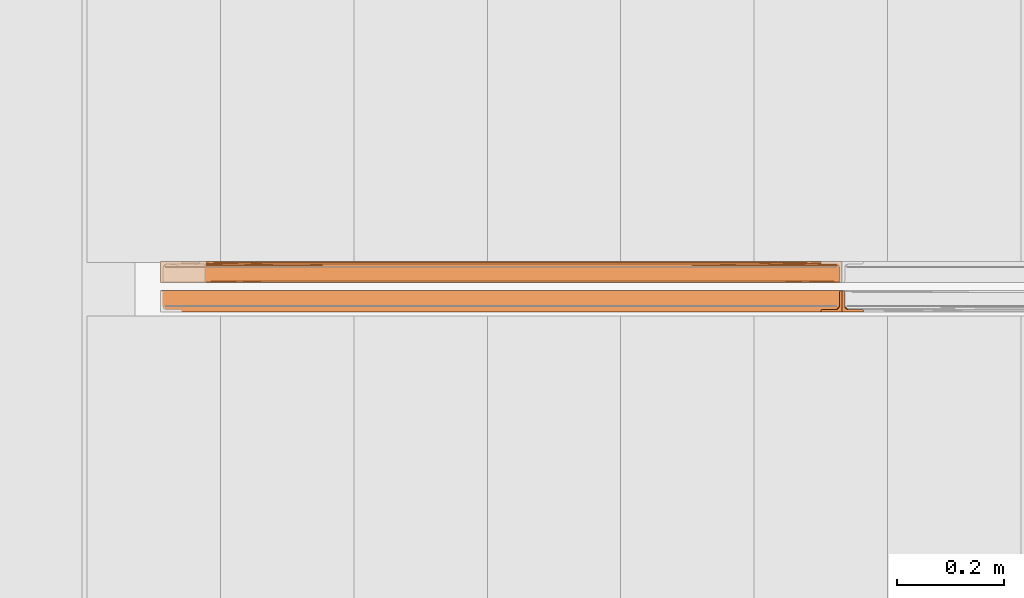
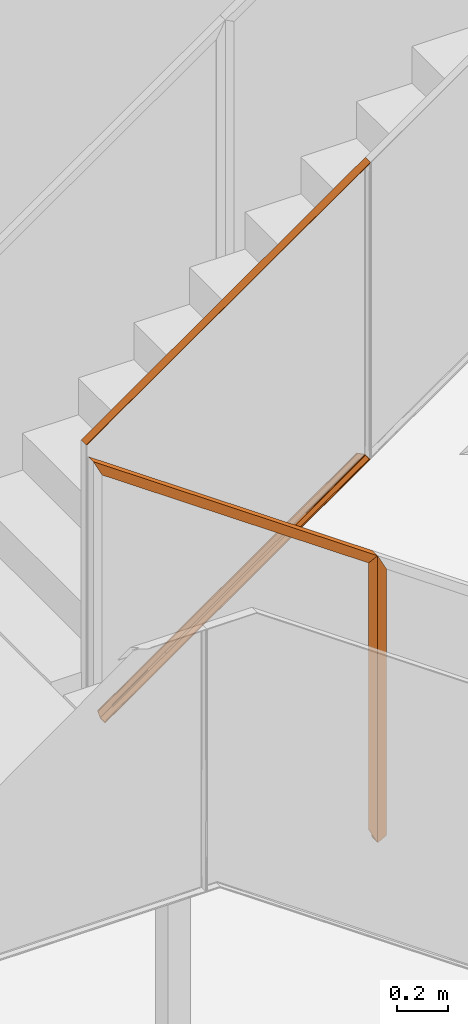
# One storey, part 220 of 230: 5 proxies.
"""IFC4X3_ADD2 building model written with IfcOpenShell, lengths in millimetres."""

from ifc_helpers import new_model, si_unit, direction, frame, origin_with_axes, place, context, subcontext, project, spatial, polygons, source, transform, mapped, material, type_object, type_shapes, element, save


model = new_model("IFC4X3_ADD2")

# Units and contexts
model_context = context("Model", 3, precision=1e-05, world=origin_with_axes(), true_north=direction((0.0, 1.0)))
body_context = subcontext(model_context, "Body", "Model", "MODEL_VIEW")
ifc_project = project(units=[si_unit("LENGTHUNIT", "METRE", prefix="MILLI"), si_unit("AREAUNIT", "SQUARE_METRE"), si_unit("VOLUMEUNIT", "CUBIC_METRE"), si_unit("PLANEANGLEUNIT", "RADIAN"), si_unit("TIMEUNIT", "SECOND"), si_unit("MASSUNIT", "GRAM")], contexts=[model_context])

# Site, building, storey
site_placement = place(None, origin_with_axes())
site = spatial("IfcSite", under=ifc_project, at=site_placement, Name="Site", CompositionType="ELEMENT")
building_placement = place(site_placement, origin_with_axes())
building = spatial("IfcBuilding", under=site, at=building_placement, Name="IFC Building Story")
storey_placement = place(building_placement, origin_with_axes())
storey = spatial("IfcBuildingStorey", under=building, at=storey_placement, Name="ETAGE 00 (0)", Elevation=0.0)

# Proxies
ifc_material = material(Name="<Unnamed>")
building_element_proxy_type_1 = type_object("IfcBuildingElementProxyType", Name="65", PredefinedType="NOTDEFINED")
shared_shape_1 = source(origin_with_axes(), body_context, "Body", "Tessellation", [
    polygons([(40.0, 1.99999999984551, 1286.24648225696), (40.0, 2.00000000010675, 20.8226812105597), (40.0, 0.0, 20.8226812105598), (40.0, 0.0, 1286.24648225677), (0.0, 40.0, 0.0), (2.00000000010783, 40.0, 1.0411340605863), (2.00000000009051, 40.0, 170.921949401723), (1.99999999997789, 40.0, 1190.20685839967), (1.99999999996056, 40.0, 1360.0876765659), (0.0, 40.0, 1363.97405521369), (0.0, 0.0, 1363.97405521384), (2.31582844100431, 39.9880662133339, 1359.47396211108), (3.85282235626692, 39.5249174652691, 1356.487291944), (4.49041205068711, 38.9106020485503, 1355.24833445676), (4.85253243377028, 38.1387003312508, 1354.54466599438), (4.99999999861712, 37.0000000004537, 1354.25810859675), (4.9999999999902, 10.9999999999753, 1354.25810859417), (5.20343727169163, 9.07135693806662, 1353.86279145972), (6.013572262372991, 7.18640241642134, 1352.2885457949), (6.57146270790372, 6.656169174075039, 1351.20445903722), (7.35845085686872, 5.90819565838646, 1349.6751920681), (7.87202388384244, 5.62808755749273, 1348.67722244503), (8.43751112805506, 5.51453953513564, 1347.57837366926), (11.0000000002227, 5.0000000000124, 1342.59897265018), (37.0000000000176, 4.99999999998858, 1292.07605022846), (37.3248673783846, 4.98656493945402, 1291.44477140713), (38.8635648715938, 4.515764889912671, 1288.45479086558), (39.4961244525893, 3.90202600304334, 1287.22560784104), (39.8549912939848, 3.13282829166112, 1286.52826162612), (5.00000000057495, 37.0, 2.60283515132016), (5.00000000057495, 11.0, 2.60283515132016), (5.00000000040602, 10.999999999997, 171.559746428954), (4.99999999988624, 10.9999999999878, 678.430473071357), (4.99999999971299, 10.9999999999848, 847.387381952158), (4.999999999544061, 10.9999999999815, 1016.34429083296), (4.9999999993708, 10.9999999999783, 1185.30119971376), (5.093531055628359, 10.738712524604, 1185.14983023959), (8.44950392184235, 5.41072556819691, 1011.78017006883), (7.05825766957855, 7.64211452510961, 1013.59818569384), (7.73467028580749, 8.22679398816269, 676.497748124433), (7.95812308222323, 8.006273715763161, 172.18510161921), (7.96952985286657, 7.99277528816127, 340.235625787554), (7.88302473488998, 8.0784591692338, 508.317894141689), (11.0008075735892, 5.000818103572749, 5.72623733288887), (11.0008075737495, 5.00081810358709, 841.2716977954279), (7.3902713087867, 6.096478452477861, 3.84713158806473), (8.99855759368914, 5.2998670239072, 4.68435240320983), (11.0000000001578, 5.000000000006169, 1008.38078941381), (7.55959795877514, 8.37434716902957, 844.7873142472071), (6.77279429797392, 6.78009211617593, 3.5256934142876), (5.79338493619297, 7.86440393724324, 3.01584519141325), (36.9999999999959, 4.99999999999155, 19.2609801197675), (36.9999999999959, 4.99999999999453, 178.362863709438), (37.0, 5.00000000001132, 1132.97416644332), (38.7100683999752, 4.51550741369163, 20.1511853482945), (39.6148270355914, 3.54657935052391, 20.6221728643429), (0.0, 0.0, 0.0), (3.71202322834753, 39.5142342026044, 1.93235690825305), (4.61571354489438, 38.5449806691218, 2.40278829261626)], [[[1, 2, 3, 4]], [[8, 9, 10]], [[10, 7, 8]], [[10, 5, 7]], [[5, 6, 7]], [[25, 26, 27]], [[25, 27, 28]], [[25, 28, 29]], [[25, 29, 1]], [[25, 1, 4]], [[4, 11, 24]], [[4, 24, 25]], [[11, 23, 24]], [[11, 22, 23]], [[11, 21, 22]], [[11, 20, 21]], [[11, 19, 20]], [[11, 18, 19]], [[11, 17, 18]], [[11, 9, 12]], [[11, 12, 13]], [[11, 13, 14]], [[11, 14, 15]], [[11, 15, 16]], [[11, 16, 17]], [[11, 10, 9]], [[36, 17, 16]], [[16, 35, 36]], [[16, 34, 35]], [[16, 33, 34]], [[33, 16, 30]], [[30, 32, 33]], [[30, 31, 32]], [[21, 20, 37]], [[37, 22, 21]], [[37, 38, 23]], [[37, 39, 38]], [[43, 40, 33]], [[33, 42, 43]], [[33, 32, 42]], [[32, 41, 42]], [[20, 19, 36]], [[18, 17, 36]], [[36, 19, 18]], [[42, 41, 44]], [[44, 43, 42]], [[44, 40, 43]], [[44, 45, 40]], [[46, 47, 41]], [[41, 47, 44]], [[48, 38, 49]], [[49, 45, 48]], [[38, 39, 49]], [[24, 23, 38]], [[45, 49, 40]], [[34, 49, 39]], [[35, 39, 37]], [[49, 34, 33]], [[50, 41, 32]], [[32, 51, 50]], [[32, 31, 51]], [[33, 40, 49]], [[37, 36, 35]], [[39, 35, 34]], [[38, 48, 24]], [[41, 50, 46]], [[36, 37, 20]], [[37, 23, 22]], [[53, 45, 44]], [[44, 52, 53]], [[53, 54, 45]], [[54, 48, 45]], [[54, 25, 24]], [[54, 24, 48]], [[54, 53, 2, 1]], [[1, 29, 54]], [[26, 25, 54]], [[28, 27, 54]], [[54, 29, 28]], [[54, 27, 26]], [[55, 56, 53]], [[53, 52, 55]], [[53, 56, 2]], [[11, 4, 3, 57]], [[10, 11, 57, 5]], [[8, 7, 30, 16]], [[16, 15, 8]], [[12, 9, 8]], [[14, 13, 8]], [[8, 15, 14]], [[8, 13, 12]], [[58, 59, 7]], [[7, 6, 58]], [[7, 59, 30]], [[31, 30, 59]], [[31, 59, 58]], [[31, 58, 6]], [[31, 6, 5]], [[31, 5, 57]], [[57, 51, 31]], [[57, 50, 51]], [[57, 46, 50]], [[57, 47, 46]], [[57, 44, 47]], [[57, 3, 2]], [[57, 2, 56]], [[57, 56, 55]], [[57, 55, 52]], [[57, 52, 44]]]),
])
type_shapes(building_element_proxy_type_1, [shared_shape_1])
proxy_1_placement = place(storey_placement, frame((36336.6894781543, 1792.49996376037, 717.786953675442), z_axis=(0.0, 0.0, 1.0), x_axis=(1.0, 0.0, 0.0)))
element("IfcBuildingElementProxy", 1, at=proxy_1_placement, inside=storey, type_object=building_element_proxy_type_1, material=ifc_material, Name="33", ObjectType="33", context=body_context, shape_type="MappedRepresentation", body=[
    mapped(shared_shape_1, transform((0.0, 0.0, 0.0))),
])
building_element_proxy_type_2 = type_object("IfcBuildingElementProxyType", Name="69", PredefinedType="NOTDEFINED")
shared_shape_2 = source(origin_with_axes(), body_context, "Body", "Tessellation", [
    polygons([(1087.80507079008, 1.9999999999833, 104.614186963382), (938.1101435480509, 2.0000000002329, 209.228372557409), (788.415216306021, 2.00000000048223, 313.842558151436), (638.720289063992, 2.00000000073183, 418.456743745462), (489.025361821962, 2.00000000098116, 523.070929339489), (339.330434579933, 2.00000000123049, 627.685114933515), (189.635507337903, 2.0000000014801, 732.299300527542), (39.9405800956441, 2.00000000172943, 836.913486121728), (39.9405800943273, 0.0, 836.9134861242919), (1237.49999999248, 0.0, 0.0), (1237.49999999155, 1.99999999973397, 0.0), (1277.4999999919, 0.0, 20.5847158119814), (1277.4999999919, 39.9999993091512, 20.5847158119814), (1275.49999998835, 39.999998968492, 19.5554800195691), (1273.78295876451, 39.5192020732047, 18.671859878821), (1272.8892796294, 38.5672469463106, 18.2119566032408), (1272.49999999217, 36.999999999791, 18.0116263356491), (1272.49999999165, 10.9999999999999, 18.0116263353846), (1271.70646560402, 7.84953853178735, 17.6032593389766), (1270.72361303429, 6.76925584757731, 17.0974658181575), (1270.09140710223, 6.07437938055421, 16.7721213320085), (1268.48792597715, 5.292541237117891, 15.9469412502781), (1266.4999999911, 4.99999992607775, 14.9239189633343), (1240.49999998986, 4.99999993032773, 1.54385368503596), (1238.78411000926, 4.51614877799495, 0.660825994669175), (1237.88638288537, 3.55634971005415, 0.198839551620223), (0.0, 40.0, 914.525594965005), (1.99708906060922, 40.0, 910.6448728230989), (161.184952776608, 39.9999999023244, 799.258698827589), (320.37281649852, 39.9999997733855, 687.872524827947), (479.560680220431, 39.9999996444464, 576.486350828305), (638.748543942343, 39.9999995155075, 465.100176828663), (797.93640766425, 39.9999993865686, 353.714002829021), (957.1242713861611, 39.9999992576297, 242.32782882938), (1116.31213510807, 39.9999991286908, 130.941654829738), (0.0, 0.0, 914.525594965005), (789.166920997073, 4.99999996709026, 316.990242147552), (39.480432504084, 3.82763644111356, 837.807640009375), (39.8256776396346, 3.01425003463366, 837.136763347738), (187.389484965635, 5.00000001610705, 737.585424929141), (38.0473110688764, 4.85258166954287, 840.59246628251), (36.9451259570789, 5.00000002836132, 842.734220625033), (1090.0556390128, 4.999999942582, 106.692650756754), (939.611280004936, 4.99999995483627, 211.841446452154), (488.278202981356, 4.99999999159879, 527.2878335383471), (337.833843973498, 5.00000000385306, 632.436629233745), (638.722561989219, 4.99999997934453, 422.13903784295), (324.862934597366, 4.99999996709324, 673.617309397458), (167.923423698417, 4.99999997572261, 783.399541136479), (10.9839127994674, 4.9999999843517, 893.1817728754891), (638.737543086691, 8.20848828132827, 458.044442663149), (480.943324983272, 8.37005282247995, 568.63793859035), (480.306575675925, 11.0023662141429, 572.2672862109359), (1114.0628223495, 10.997867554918, 128.864912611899), (1111.83497002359, 8.00304115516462, 126.801265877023), (954.1286967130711, 7.98525257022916, 237.116300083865), (796.454047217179, 8.06538862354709, 347.527651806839), (5.29290837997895, 8.72763689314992, 904.2404719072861), (6.02319753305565, 7.18090700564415, 902.8213818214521), (163.431122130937, 10.9999999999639, 793.972288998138), (6.59476591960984, 6.631767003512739, 901.710716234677), (164.951057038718, 7.684066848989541, 790.397291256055), (166.033180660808, 5.39491835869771, 787.853061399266), (10.3484976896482, 5.02188702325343, 894.416504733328), (323.074240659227, 8.50738667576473, 679.2777271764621), (321.869533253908, 10.9999999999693, 683.120765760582), (8.469863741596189, 5.58853426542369, 898.067046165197), (7.31943353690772, 5.93553539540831, 900.302549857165), (4.99271100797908, 10.9999999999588, 904.823812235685), (1114.06158785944, 36.9999999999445, 128.863150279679), (955.6231768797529, 37.0000000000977, 239.714673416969), (797.1847659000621, 37.0000000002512, 350.566196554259), (638.7463549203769, 37.0000000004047, 461.417719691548), (480.307943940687, 37.0000000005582, 572.269242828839), (321.869532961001, 37.0000000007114, 683.1207659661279), (163.431121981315, 37.0000000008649, 793.972289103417), (4.99271100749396, 37.0000000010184, 904.823812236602), (4.53374512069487, 38.8251689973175, 905.715669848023), (4.87983447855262, 37.9993302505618, 905.0431527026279), (3.10194289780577, 39.8549942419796, 908.4979326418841)], [[[7, 8, 9]], [[9, 6, 7]], [[9, 5, 6]], [[9, 4, 5]], [[9, 3, 4]], [[9, 2, 3]], [[9, 1, 2]], [[9, 10, 1]], [[10, 11, 1]], [[23, 24, 25]], [[23, 25, 26]], [[23, 26, 11]], [[23, 11, 10]], [[23, 10, 12]], [[12, 22, 23]], [[12, 21, 22]], [[12, 20, 21]], [[12, 19, 20]], [[12, 18, 19]], [[12, 13, 14]], [[12, 14, 15]], [[12, 15, 16]], [[12, 16, 17]], [[12, 17, 18]], [[35, 14, 13]], [[13, 34, 35]], [[13, 33, 34]], [[13, 32, 33]], [[13, 31, 32]], [[13, 30, 31]], [[13, 29, 30]], [[13, 27, 29]], [[27, 28, 29]], [[12, 10, 9, 36]], [[4, 3, 37]], [[38, 39, 40]], [[40, 41, 38]], [[40, 42, 41]], [[40, 39, 8]], [[8, 7, 40]], [[1, 43, 44]], [[3, 2, 44]], [[43, 1, 11]], [[11, 26, 43]], [[25, 24, 43]], [[43, 26, 25]], [[6, 5, 45]], [[7, 6, 46]], [[5, 4, 47]], [[47, 45, 5]], [[46, 40, 7]], [[45, 46, 6]], [[44, 37, 3]], [[44, 2, 1]], [[37, 47, 4]], [[49, 50, 42]], [[49, 42, 40]], [[40, 46, 48]], [[40, 48, 49]], [[43, 24, 23]], [[23, 44, 43]], [[23, 37, 44]], [[23, 47, 37]], [[23, 48, 47]], [[48, 45, 47]], [[48, 46, 45]], [[51, 52, 53]], [[57, 51, 53]], [[53, 56, 57]], [[53, 54, 56]], [[54, 55, 56]], [[58, 59, 60]], [[61, 62, 60]], [[60, 59, 61]], [[51, 52, 48]], [[48, 57, 51]], [[48, 56, 57]], [[48, 55, 56]], [[48, 23, 55]], [[50, 49, 63]], [[63, 64, 50]], [[20, 19, 54]], [[19, 18, 54]], [[65, 52, 53]], [[66, 60, 62]], [[49, 48, 65]], [[65, 63, 49]], [[67, 63, 62]], [[62, 68, 67]], [[23, 22, 55]], [[21, 20, 55]], [[55, 22, 21]], [[62, 61, 68]], [[65, 62, 63]], [[52, 65, 48]], [[62, 65, 66]], [[53, 66, 65]], [[54, 55, 20]], [[63, 67, 64]], [[60, 69, 58]], [[76, 77, 69]], [[76, 69, 60]], [[60, 66, 75]], [[60, 75, 76]], [[66, 53, 74]], [[66, 74, 75]], [[53, 73, 74]], [[53, 72, 73]], [[72, 53, 54]], [[54, 71, 72]], [[54, 70, 71]], [[54, 18, 17]], [[54, 17, 70]], [[73, 72, 33]], [[78, 79, 29]], [[29, 80, 78]], [[29, 28, 80]], [[29, 79, 77]], [[77, 76, 29]], [[70, 35, 34]], [[72, 71, 34]], [[35, 70, 17]], [[17, 16, 35]], [[15, 14, 35]], [[35, 16, 15]], [[75, 74, 31]], [[76, 75, 30]], [[74, 73, 32]], [[32, 31, 74]], [[30, 29, 76]], [[31, 30, 75]], [[34, 33, 72]], [[34, 71, 70]], [[33, 32, 73]], [[13, 12, 36, 27]], [[28, 27, 36]], [[28, 36, 69]], [[69, 77, 79]], [[69, 79, 78]], [[69, 78, 80]], [[69, 80, 28]], [[36, 58, 69]], [[36, 59, 58]], [[36, 61, 59]], [[36, 68, 61]], [[36, 67, 68]], [[36, 64, 67]], [[36, 50, 64]], [[36, 9, 42]], [[36, 42, 50]], [[9, 8, 39]], [[9, 39, 38]], [[9, 38, 41]], [[9, 41, 42]]]),
])
type_shapes(building_element_proxy_type_2, [shared_shape_2])
proxy_2_placement = place(storey_placement, frame((35059.1894781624, 1792.49996376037, 2061.17629308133), z_axis=(0.0, 0.0, 1.0), x_axis=(1.0, 0.0, 0.0)))
element("IfcBuildingElementProxy", 2, at=proxy_2_placement, inside=storey, type_object=building_element_proxy_type_2, material=ifc_material, Name="35", ObjectType="35", context=body_context, shape_type="MappedRepresentation", body=[
    mapped(shared_shape_2, transform((0.0, 0.0, 0.0))),
])
building_element_proxy_type_3 = type_object("IfcBuildingElementProxyType", Name="73", PredefinedType="NOTDEFINED")
shared_shape_3 = source(origin_with_axes(), body_context, "Body", "Tessellation", [
    polygons([(0.0, 2.0000000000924, 76.8392861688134), (0.0, 1.99999999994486, 1343.38933940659), (0.0, 0.0, 1343.38933940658), (0.0, 0.0, 76.8392861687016), (0.327991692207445, 3.45815368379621, 1343.55812980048), (1.13188224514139, 4.41923267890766, 1343.97182626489), (3.00000000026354, 4.99999999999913, 1344.93319309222), (29.0000000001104, 5.00000000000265, 1358.31325837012), (30.926496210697, 5.266664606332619, 1359.30466779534), (32.310878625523, 5.87172563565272, 1360.01709575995), (33.2995916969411, 6.71022901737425, 1360.52590519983), (33.6151337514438, 6.97783251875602, 1360.6882887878), (34.6104471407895, 8.69632131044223, 1361.20049486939), (35.0000000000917, 11.0, 1361.40096574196), (35.000000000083, 37.0, 1361.40096574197), (35.3279923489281, 38.4581549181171, 1361.56975647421), (36.1318837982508, 39.4192337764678, 1361.98345339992), (37.9999999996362, 39.9999996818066, 1362.94481942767), (40.0, 40.0, 1363.9740552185), (40.0, 0.0, 1363.97405521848), (32.4273969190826, 8.38444936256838, 519.098461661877), (32.2621478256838, 8.21933205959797, 687.413218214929), (32.1156348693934, 8.07323138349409, 855.6192954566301), (32.0316664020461, 7.990615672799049, 1023.72930930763), (34.9981749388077, 11.0017979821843, 1023.45195197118), (35.0021207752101, 10.9979106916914, 516.528431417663), (35.0000000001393, 11.0, 1192.42645887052), (32.0601748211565, 7.987688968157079, 1191.80818023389), (29.0000000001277, 4.99999999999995, 1191.16545153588), (35.0004955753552, 10.9996975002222, 347.553924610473), (34.8927832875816, 10.7692745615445, 178.725520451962), (31.5802848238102, 5.397909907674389, 352.023770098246), (32.9234502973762, 7.59780584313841, 350.250145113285), (33.4570276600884, 6.621242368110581, 12.5689331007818), (33.9451302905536, 7.07589816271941, 11.6312966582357), (35.0000000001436, 11.0, 178.57941764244), (34.6938525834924, 8.64555325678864, 10.1930144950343), (35.0000000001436, 10.9999999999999, 9.6049107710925), (28.9993393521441, 5.00066992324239, 355.4264173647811), (29.000000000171, 4.99999999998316, 21.1308036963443), (29.5551867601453, 5.01478043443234, 20.0642998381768), (31.5871078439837, 5.581653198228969, 16.161015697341), (32.66328308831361, 5.88188849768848, 14.093702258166), (3.00000000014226, 5.00000000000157, 1184.74569161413), (3.00000000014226, 4.99999999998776, 223.620682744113), (3.00000000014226, 4.99999999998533, 71.0763397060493), (0.12933617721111, 3.09014233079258, 76.5908336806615), (0.504825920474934, 3.92809054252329, 75.8695245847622), (1.64893537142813, 4.78761083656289, 73.6717107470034), (37.9999999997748, 39.9999998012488, 1192.0376332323), (35.0000000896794, 36.9999999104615, 9.604910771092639), (38.0000000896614, 40.000000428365, 166.594516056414), (35.1293293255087, 38.0901164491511, 9.356471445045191), (35.504813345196, 38.9280723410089, 8.63517334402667), (36.6489520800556, 39.7876168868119, 6.43730325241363), (38.0000000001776, 40.0000006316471, 3.84196430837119), (40.0, 40.0000007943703, 0.0), (40.0, 0.0, 0.0)], [[[1, 2, 3, 4]], [[14, 15, 16]], [[14, 16, 17]], [[14, 17, 18]], [[14, 18, 19]], [[14, 19, 20]], [[20, 13, 14]], [[20, 12, 13]], [[20, 11, 12]], [[20, 10, 11]], [[20, 9, 10]], [[20, 8, 9]], [[20, 3, 2]], [[20, 2, 5]], [[20, 5, 6]], [[20, 6, 7]], [[20, 7, 8]], [[23, 24, 25]], [[25, 22, 23]], [[25, 26, 22]], [[26, 21, 22]], [[13, 12, 27]], [[11, 28, 27]], [[27, 12, 11]], [[10, 9, 28]], [[8, 29, 28]], [[28, 9, 8]], [[30, 31, 32, 33]], [[26, 21, 33]], [[34, 35, 36]], [[37, 38, 36]], [[36, 35, 37]], [[28, 24, 25]], [[23, 24, 29]], [[29, 22, 23]], [[29, 21, 22]], [[29, 39, 21]], [[40, 41, 32]], [[41, 42, 32]], [[39, 32, 21]], [[32, 33, 21]], [[43, 34, 31]], [[31, 32, 42]], [[31, 42, 43]], [[32, 39, 40]], [[24, 28, 29]], [[25, 27, 28]], [[36, 31, 34]], [[33, 30, 26]], [[31, 36, 30]], [[28, 11, 10]], [[27, 14, 13]], [[29, 8, 7]], [[29, 7, 44]], [[44, 45, 39]], [[44, 39, 29]], [[45, 46, 40]], [[45, 40, 39]], [[6, 5, 44]], [[44, 7, 6]], [[44, 5, 2]], [[2, 1, 45, 44]], [[1, 47, 45]], [[48, 49, 45]], [[45, 47, 48]], [[49, 46, 45]], [[17, 16, 50]], [[50, 18, 17]], [[50, 16, 15]], [[15, 51, 52, 50]], [[51, 53, 52]], [[54, 55, 52]], [[52, 53, 54]], [[55, 56, 52]], [[52, 56, 57]], [[57, 50, 52]], [[57, 19, 50]], [[19, 18, 50]], [[58, 4, 3, 20]], [[57, 58, 20, 19]], [[36, 38, 51]], [[51, 30, 36]], [[51, 26, 30]], [[51, 25, 26]], [[51, 15, 25]], [[15, 27, 25]], [[15, 14, 27]], [[46, 49, 48]], [[46, 48, 47]], [[46, 47, 1]], [[46, 1, 4]], [[4, 58, 40]], [[4, 40, 46]], [[58, 41, 40]], [[58, 42, 41]], [[58, 43, 42]], [[58, 34, 43]], [[58, 35, 34]], [[58, 37, 35]], [[58, 38, 37]], [[58, 56, 55]], [[58, 55, 54]], [[58, 54, 53]], [[58, 53, 51]], [[58, 51, 38]], [[58, 57, 56]]]),
])
type_shapes(building_element_proxy_type_3, [shared_shape_3])
proxy_3_placement = place(storey_placement, frame((36296.6894781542, 1792.49996376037, 717.786953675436), z_axis=(0.0, 0.0, 1.0), x_axis=(1.0, 0.0, 0.0)))
element("IfcBuildingElementProxy", 3, at=proxy_3_placement, inside=storey, type_object=building_element_proxy_type_3, material=ifc_material, Name="37", ObjectType="37", context=body_context, shape_type="MappedRepresentation", body=[
    mapped(shared_shape_3, transform((0.0, 0.0, 0.0))),
])
building_element_proxy_type_4 = type_object("IfcBuildingElementProxyType", Name="101", PredefinedType="NOTDEFINED")
shared_shape_4 = source(origin_with_axes(), body_context, "Body", "Tessellation", [
    polygons([(1164.80670953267, 40.0002983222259, 857.856533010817), (1164.80670953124, 38.0002983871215, 857.856533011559), (0.000174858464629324, 38.0002983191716, 40.0), (0.000174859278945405, 40.0002983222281, 40.0), (12.6121264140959, 0.00029832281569, 0.0), (11.9815288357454, 0.000298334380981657, 2.00000000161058), (160.834676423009, 0.000298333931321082, 106.509373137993), (1053.95356194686, 0.000298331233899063, 733.565611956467), (1202.8067095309, 0.000298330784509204, 838.074985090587), (1204.80670953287, 0.000298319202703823, 837.03385098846), (0.0952514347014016, 36.7384540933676, 39.6984556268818), (0.380692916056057, 35.6413537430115, 38.7931509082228), (0.8107025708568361, 35.0355975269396, 37.4293345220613), (0.946071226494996, 35.0002983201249, 36.9999999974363), (9.143839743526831, 35.0002983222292, 10.9999999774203), (9.99412924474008, 34.2965164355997, 8.30322621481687), (10.6051156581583, 32.6991971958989, 6.365424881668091), (10.9891609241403, 30.2660064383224, 5.14738891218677), (11.0356324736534, 29.0002983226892, 4.999999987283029), (11.0356324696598, 3.00029833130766, 4.99999999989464), (11.1307097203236, 1.73844635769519, 4.6984534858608), (11.4161482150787, 0.641356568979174, 3.79315823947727), (11.846157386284, 0.0355987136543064, 2.4293433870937), (12.6121264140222, 40.0002983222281, 0.0), (1204.80670953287, 40.0002983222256, 837.033850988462), (146.803651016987, 35.0002983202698, 139.411853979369), (1021.94895490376, 34.9999938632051, 753.883226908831), (1165.0846569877, 36.7607604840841, 857.711842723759), (1167.39714986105, 35.0323290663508, 856.508035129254), (1167.80670954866, 35.0002983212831, 856.294831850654), (1165.95408756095, 35.6749476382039, 857.259245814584), (1193.80670954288, 35.0002983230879, 842.760088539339), (308.228401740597, 29.000298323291, 213.659171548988), (306.977721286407, 32.0221901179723, 216.437457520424), (1198.82371215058, 32.2354010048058, 840.148402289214), (1199.73441878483, 29.9222058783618, 839.6743184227), (899.9577433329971, 32.0052137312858, 632.76831278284), (902.613940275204, 29.0002983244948, 630.977514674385), (1199.80670953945, 29.0002983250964, 839.636686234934), (1196.75836388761, 34.1695416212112, 841.223554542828), (603.457355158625, 32.0304687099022, 424.6209830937), (605.421171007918, 29.0002983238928, 422.318343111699), (1199.80670953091, 3.00029832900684, 839.636686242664), (1200.08567709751, 1.75677836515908, 839.4914649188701), (1202.39635203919, 0.0323080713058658, 838.2886036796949), (1200.95477321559, 0.672786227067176, 839.0390421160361)], [[[1, 2, 3, 4]], [[8, 9, 10]], [[10, 7, 8]], [[10, 5, 7]], [[5, 6, 7]], [[6, 5, 24]], [[24, 19, 20]], [[24, 20, 21]], [[24, 21, 22]], [[24, 22, 23]], [[24, 23, 6]], [[24, 18, 19]], [[24, 17, 18]], [[24, 16, 17]], [[24, 15, 16]], [[24, 4, 14]], [[24, 14, 15]], [[4, 3, 11]], [[4, 11, 12]], [[4, 12, 13]], [[4, 13, 14]], [[25, 1, 4, 24]], [[13, 12, 26]], [[12, 11, 26]], [[26, 14, 13]], [[26, 11, 3]], [[3, 2, 27, 26]], [[2, 28, 27]], [[29, 30, 27]], [[27, 31, 29]], [[27, 28, 31]], [[27, 30, 32]], [[32, 15, 26]], [[32, 26, 27]], [[15, 14, 26]], [[33, 19, 18]], [[18, 34, 33]], [[17, 16, 34]], [[34, 18, 17]], [[35, 36, 37]], [[38, 37, 36]], [[36, 39, 38]], [[40, 35, 37]], [[32, 40, 37]], [[41, 34, 15]], [[15, 37, 41]], [[15, 32, 37]], [[34, 16, 15]], [[34, 41, 42]], [[42, 33, 34]], [[38, 42, 41, 37]], [[38, 39, 43]], [[43, 42, 38]], [[43, 33, 42]], [[43, 20, 33]], [[20, 19, 33]], [[23, 22, 7]], [[22, 21, 7]], [[7, 6, 23]], [[7, 21, 20]], [[20, 43, 8, 7]], [[43, 44, 8]], [[45, 9, 8]], [[8, 46, 45]], [[8, 44, 46]], [[24, 5, 10, 25]], [[30, 29, 31]], [[30, 31, 28]], [[30, 28, 2]], [[30, 2, 1]], [[1, 25, 32]], [[1, 32, 30]], [[25, 40, 32]], [[25, 35, 40]], [[25, 36, 35]], [[25, 39, 36]], [[25, 9, 45]], [[25, 45, 46]], [[25, 46, 44]], [[25, 44, 43]], [[25, 43, 39]], [[25, 10, 9]]]),
])
type_shapes(building_element_proxy_type_4, [shared_shape_4])
proxy_4_placement = place(storey_placement, frame((35131.882768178, 1847.49966543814, 1670.0), z_axis=(0.0, 0.0, 1.0), x_axis=(1.0, 0.0, 0.0)))
element("IfcBuildingElementProxy", 4, at=proxy_4_placement, inside=storey, type_object=building_element_proxy_type_4, material=ifc_material, Name="51", ObjectType="51", context=body_context, shape_type="MappedRepresentation", body=[
    mapped(shared_shape_4, transform((0.0, 0.0, 0.0))),
])
building_element_proxy_type_5 = type_object("IfcBuildingElementProxyType", Name="139", PredefinedType="NOTDEFINED")
shared_shape_5 = source(origin_with_axes(), body_context, "Body", "Tessellation", [
    polygons([(40.0, 40.0079588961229, 0.0), (40.0, 38.007958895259, 0.0), (189.687500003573, 38.0079588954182, 104.856310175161), (339.3750000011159, 38.0079588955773, 209.712620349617), (489.062499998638, 38.00795889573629, 314.568930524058), (638.749999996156, 38.0079588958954, 419.425240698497), (788.437499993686, 38.0079588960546, 524.281550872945), (938.124999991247, 38.00795889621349, 629.1378610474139), (1087.81249998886, 38.0079588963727, 733.9941712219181), (1237.49999998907, 38.0079588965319, 838.850481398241), (1237.49999999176, 40.0079588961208, 838.8504814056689), (1277.49999999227, 0.007957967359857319, 916.5780543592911), (1275.499999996, 0.00795796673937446, 912.691675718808), (1116.50573228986, 0.00795797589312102, 801.185169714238), (160.482386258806, 0.00795803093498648, 130.702991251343), (2.00000000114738, 0.00795804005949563, 19.5554800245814), (0.0, 0.007958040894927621, 20.5847158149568), (1237.57236868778, 37.259485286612, 838.9911074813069), (1237.85646384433, 36.472770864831, 839.543158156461), (1239.06216942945, 35.3535405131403, 841.8860723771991), (1240.49999998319, 35.0079630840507, 844.680049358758), (1266.49999999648, 35.0079674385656, 895.202971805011), (1268.89504666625, 34.5373021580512, 899.857000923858), (1270.06510463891, 33.8196577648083, 902.130645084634), (1270.79780488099, 33.3702627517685, 903.5544203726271), (1271.6423098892, 32.3448504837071, 905.195453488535), (1272.31065830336, 30.7173310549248, 906.4941809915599), (1272.49999999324, 29.0079588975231, 906.86210774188), (1272.49999999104, 3.00795889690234, 906.862107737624), (1272.60845944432, 2.09780111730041, 907.072864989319), (1272.89782725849, 1.39074123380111, 907.635161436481), (1274.09571090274, 0.331107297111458, 909.962876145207), (1277.49999999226, 40.0079588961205, 916.5780543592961), (954.242400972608, 31.9574988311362, 680.0658671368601), (638.181925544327, 32.0910581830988, 458.263996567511), (319.970062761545, 29.0091640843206, 238.889853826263), (955.774923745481, 29.0066449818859, 684.7530222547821), (6.1310250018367, 32.4490441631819, 17.4295806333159), (5.07805529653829, 29.9621805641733, 17.9714576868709), (322.4611106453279, 32.0796038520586, 236.914116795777), (5.000000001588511, 29.0079588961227, 18.0116263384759), (8.95045527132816, 34.6113088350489, 15.9786513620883), (11.0000000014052, 35.007955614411, 14.9239189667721), (952.624649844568, 35.0085805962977, 675.1337079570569), (1090.25578904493, 35.0079643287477, 739.4234374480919), (939.6995956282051, 35.0079629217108, 633.948259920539), (788.959798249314, 35.007961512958, 528.344454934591), (638.1647754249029, 35.0079601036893, 422.701960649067), (487.442905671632, 35.0079586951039, 317.110715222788), (336.922567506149, 35.0079572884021, 211.660656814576), (186.732139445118, 35.0079558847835, 106.441723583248), (37.0000000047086, 35.0079544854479, 1.5438536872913), (37.3090523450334, 35.0264592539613, 1.38480982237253), (38.9014952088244, 35.7266503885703, 0.565310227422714), (39.6063440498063, 36.554751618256, 0.202582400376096), (5.00459049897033, 2.9999999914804, 18.0050808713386), (2.29983766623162, 0.0251832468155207, 19.4011781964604), (3.89501052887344, 0.7172199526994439, 18.5802736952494), (4.605406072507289, 1.54836676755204, 18.2146914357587), (0.0, 40.0079588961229, 20.5847158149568)], [[[9, 10, 11]], [[11, 8, 9]], [[11, 7, 8]], [[11, 6, 7]], [[11, 5, 6]], [[11, 4, 5]], [[11, 3, 4]], [[11, 1, 3]], [[1, 2, 3]], [[15, 16, 17]], [[17, 14, 15]], [[17, 12, 14]], [[12, 13, 14]], [[28, 29, 30]], [[28, 30, 31]], [[28, 31, 32]], [[28, 32, 13]], [[28, 13, 12]], [[28, 12, 33]], [[33, 27, 28]], [[33, 26, 27]], [[33, 25, 26]], [[33, 24, 25]], [[33, 23, 24]], [[33, 22, 23]], [[33, 11, 10]], [[33, 10, 18]], [[33, 18, 19]], [[33, 19, 20]], [[33, 20, 21]], [[33, 21, 22]], [[34, 35, 36, 37]], [[27, 26, 37]], [[26, 25, 37]], [[24, 34, 37]], [[37, 25, 24]], [[38, 39, 40]], [[36, 40, 39]], [[39, 41, 36]], [[42, 38, 40]], [[35, 40, 36]], [[43, 42, 40]], [[44, 43, 40, 35]], [[22, 44, 34]], [[34, 23, 22]], [[34, 24, 23]], [[35, 34, 44]], [[37, 28, 27]], [[45, 46, 44]], [[44, 22, 21]], [[44, 21, 45]], [[51, 52, 43]], [[43, 50, 51]], [[43, 49, 50]], [[43, 48, 49]], [[43, 44, 48]], [[44, 47, 48]], [[44, 46, 47]], [[7, 6, 48]], [[51, 3, 2]], [[53, 52, 51]], [[51, 54, 53]], [[51, 55, 54]], [[9, 8, 46]], [[8, 7, 47]], [[19, 18, 45]], [[45, 20, 19]], [[45, 21, 20]], [[45, 18, 10]], [[10, 9, 45]], [[4, 50, 49]], [[3, 51, 50]], [[6, 5, 49]], [[49, 48, 6]], [[50, 4, 3]], [[49, 5, 4]], [[47, 46, 8]], [[46, 45, 9]], [[2, 55, 51]], [[48, 47, 7]], [[56, 15, 14, 29]], [[57, 16, 15]], [[15, 58, 57]], [[15, 59, 58]], [[31, 30, 14]], [[14, 32, 31]], [[14, 13, 32]], [[14, 30, 29]], [[56, 59, 15]], [[60, 1, 11, 33]], [[33, 12, 17, 60]], [[36, 41, 56]], [[56, 37, 36]], [[56, 29, 37]], [[29, 28, 37]], [[52, 53, 54]], [[52, 54, 55]], [[52, 55, 2]], [[52, 2, 1]], [[1, 60, 43]], [[1, 43, 52]], [[60, 42, 43]], [[60, 38, 42]], [[60, 39, 38]], [[60, 41, 39]], [[60, 16, 57]], [[60, 57, 58]], [[60, 58, 59]], [[60, 59, 56]], [[60, 56, 41]], [[60, 17, 16]]]),
])
type_shapes(building_element_proxy_type_5, [shared_shape_5])
proxy_5_placement = place(storey_placement, frame((35059.1894781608, 1847.49200486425, 3000.92819633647), z_axis=(0.0, 0.0, 1.0), x_axis=(1.0, 0.0, 0.0)))
element("IfcBuildingElementProxy", 5, at=proxy_5_placement, inside=storey, type_object=building_element_proxy_type_5, material=ifc_material, Name="75", ObjectType="75", context=body_context, shape_type="MappedRepresentation", body=[
    mapped(shared_shape_5, transform((0.0, 0.0, 0.0))),
])

save(model, "model.ifc")
